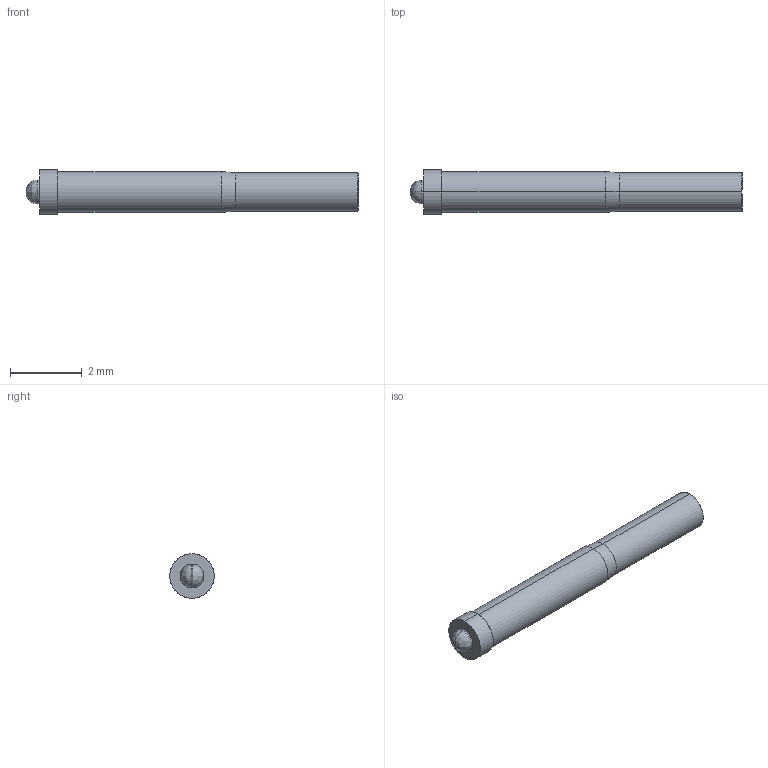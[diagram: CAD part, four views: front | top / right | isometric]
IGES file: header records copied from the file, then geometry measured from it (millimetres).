
Start section: SolidWorks IGES file using analytic representation for surfaces
Global section: file name: O:\PYLON\IGES FILES\C-S\C-S-R REC'D.IGS; native system: SolidWorks 2015; preprocessor: SolidWorks 2015; author: kgolden; date: 171024.080859; units: inch
Bounding box: 9.27 x 1.24 x 1.24 mm (x, y, z)
Surface area: 38.4 mm2 (no closed solid volume)
Topology: 0 solids, 0 shells, 19 faces, 176 edges, 176 vertices
Faces by surface type: revolution 12, bspline 7
